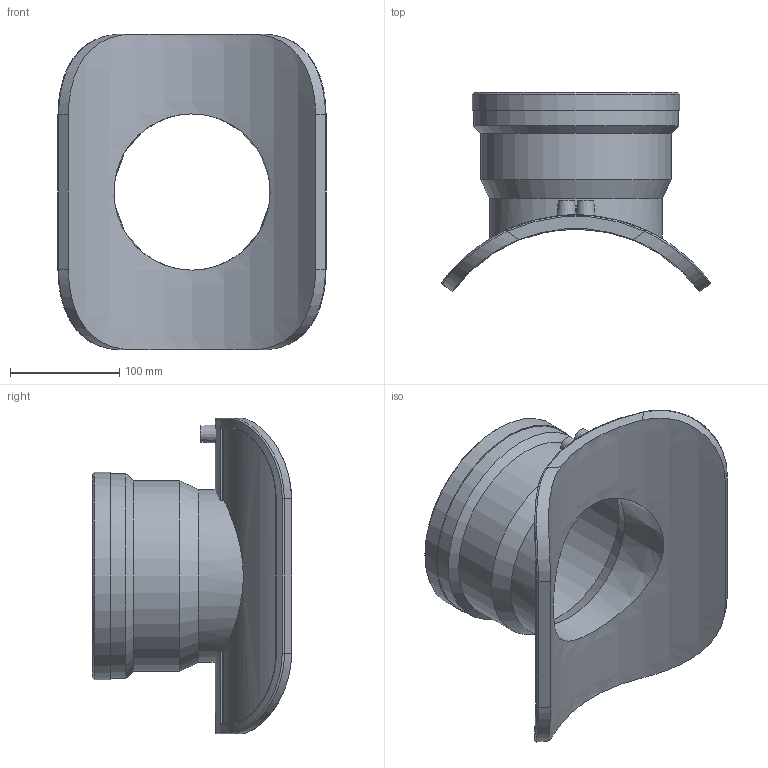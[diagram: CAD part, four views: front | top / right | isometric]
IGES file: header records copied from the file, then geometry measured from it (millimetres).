
Global section: file name: 5758BPV4140060.ipt; native system: Autodesk Inventor 2019; preprocessor: unknown; author: 12HКирилл; date: 20210830.100829; units: inch
Bounding box: 245.76 x 182.45 x 289.56 mm (x, y, z)
Volume: 1257832.1 mm3; surface area: 277124.6 mm2
Topology: 1 solids, 1 shells, 83 faces, 199 edges, 127 vertices
Faces by surface type: cylinder 24, revolution 24, plane 21, bspline 8, cone 6
Full cylindrical faces by diameter (mm): 4 x2, 158.636 x1, 159.1 x1, 174.546 x1, 188.092 x1, 189.992 x1
